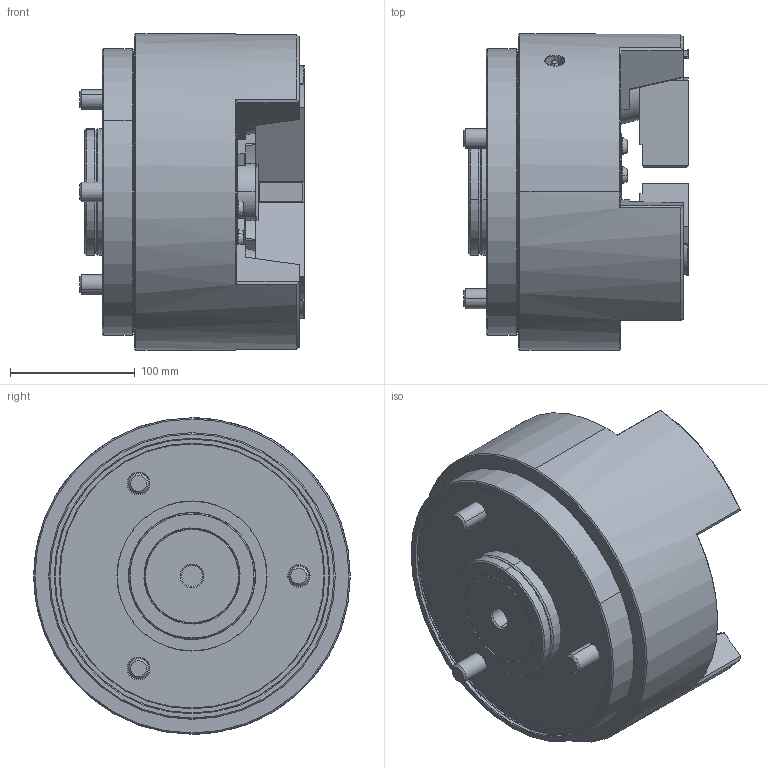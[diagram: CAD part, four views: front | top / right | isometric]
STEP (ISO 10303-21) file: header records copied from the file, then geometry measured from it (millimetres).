
FILE_DESCRIPTION (( 'STEP AP214' ), '1' );
FILE_NAME ('PUB210_CL.STEP', '2019-10-25T03:55:12', ( '' ), ( '' ), 'SwSTEP 2.0', 'SolidWorks 2017', '' );
FILE_SCHEMA (( 'AUTOMOTIVE_DESIGN' ));
Length unit declared in the file: millimetre
Products named in the file (4): PUB210_CL; 結合; 0030114035; 61P332362
Assembly tree (7 placements, depth 2):
  PUB210_CL
    61P332362  x3
    0030114035  x3
    結合
Bounding box: 180 x 254 x 254 mm (x, y, z)
Volume: 5672539.4 mm3; surface area: 377350.6 mm2
Topology: 7 solids, 7 shells, 976 faces, 2444 edges, 1541 vertices
Faces by surface type: plane 484, cone 184, bspline 143, cylinder 132, torus 33
Entity records: 33537 total; most frequent: CARTESIAN_POINT 13521, ORIENTED_EDGE 4392, DIRECTION 3630, EDGE_CURVE 2196, VERTEX_POINT 1403, VECTOR 1220, LINE 1220, AXIS2_PLACEMENT_3D 1205
